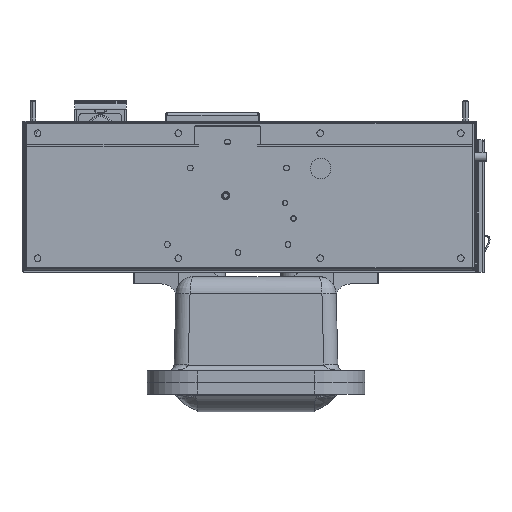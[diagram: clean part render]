
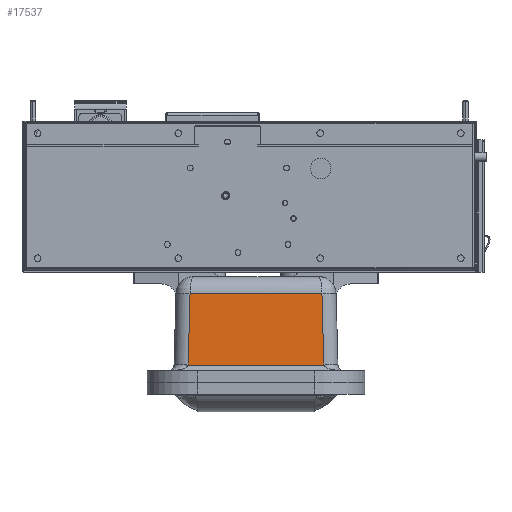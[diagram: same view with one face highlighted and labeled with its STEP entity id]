
A CAD part, front view. The second image highlights one B-rep face of the part: STEP entity #17537.
In plain terms, the highlighted planar face has unit normal (0, -1, 0.026).
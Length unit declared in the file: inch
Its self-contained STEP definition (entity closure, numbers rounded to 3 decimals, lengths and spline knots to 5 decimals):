
#4332 = ORIENTED_EDGE ( 'NONE', *, *, #73813, .F. ) ;
#5323 = CARTESIAN_POINT ( 'NONE',  ( 3.19696, 3.78477, -24.18288 ) ) ;
#6217 = DIRECTION ( 'NONE',  ( -1., 0., 0. ) ) ;
#8525 = DIRECTION ( 'NONE',  ( 0., -1., 0.026 ) ) ;
#17537 = ADVANCED_FACE ( 'NONE', ( #94180 ), #112539, .T. ) ;
#20525 = DIRECTION ( 'NONE',  ( 0., -0.026, -1. ) ) ;
#29184 = AXIS2_PLACEMENT_3D ( 'NONE', #106776, #8525, #20525 ) ;
#32408 = LINE ( 'NONE', #52120, #49912 ) ;
#33656 = DIRECTION ( 'NONE',  ( -1., 0., 0. ) ) ;
#34348 = ORIENTED_EDGE ( 'NONE', *, *, #95951, .T. ) ;
#35568 = VECTOR ( 'NONE', #6217, 39.37008 ) ;
#45802 = VERTEX_POINT ( 'NONE', #116060 ) ;
#49039 = LINE ( 'NONE', #113761, #64008 ) ;
#49912 = VECTOR ( 'NONE', #33656, 39.37008 ) ;
#50054 = VECTOR ( 'NONE', #124386, 39.37008 ) ;
#52120 = CARTESIAN_POINT ( 'NONE',  ( 5.0203, 3.70553, -27.20906 ) ) ;
#57863 = LINE ( 'NONE', #125003, #50054 ) ;
#58848 = ORIENTED_EDGE ( 'NONE', *, *, #66502, .F. ) ;
#64008 = VECTOR ( 'NONE', #87722, 39.37008 ) ;
#66502 = EDGE_CURVE ( 'NONE', #99167, #45802, #57863, .T. ) ;
#73813 = EDGE_CURVE ( 'NONE', #123565, #99167, #32408, .T. ) ;
#78062 = CARTESIAN_POINT ( 'NONE',  ( 3.27621, 3.70553, -27.20906 ) ) ;
#79694 = ORIENTED_EDGE ( 'NONE', *, *, #121905, .F. ) ;
#87722 = DIRECTION ( 'NONE',  ( 0.026, -0.026, -0.999 ) ) ;
#94180 = FACE_OUTER_BOUND ( 'NONE', #108929, .T. ) ;
#95951 = EDGE_CURVE ( 'NONE', #111851, #45802, #121641, .T. ) ;
#99167 = VERTEX_POINT ( 'NONE', #111761 ) ;
#106776 = CARTESIAN_POINT ( 'NONE',  ( 5.0203, 3.70553, -27.20906 ) ) ;
#108929 = EDGE_LOOP ( 'NONE', ( #58848, #4332, #79694, #34348 ) ) ;
#111761 = CARTESIAN_POINT ( 'NONE',  ( -2.48561, 3.70553, -27.20906 ) ) ;
#111851 = VERTEX_POINT ( 'NONE', #5323 ) ;
#112539 = PLANE ( 'NONE',  #29184 ) ;
#113761 = CARTESIAN_POINT ( 'NONE',  ( 3.27355, 3.70819, -27.10757 ) ) ;
#116060 = CARTESIAN_POINT ( 'NONE',  ( -2.40637, 3.78477, -24.18288 ) ) ;
#121641 = LINE ( 'NONE', #123497, #35568 ) ;
#121905 = EDGE_CURVE ( 'NONE', #111851, #123565, #49039, .T. ) ;
#123497 = CARTESIAN_POINT ( 'NONE',  ( 5.0203, 3.78477, -24.18288 ) ) ;
#123565 = VERTEX_POINT ( 'NONE', #78062 ) ;
#124386 = DIRECTION ( 'NONE',  ( 0.026, 0.026, 0.999 ) ) ;
#125003 = CARTESIAN_POINT ( 'NONE',  ( -2.44019, 3.75095, -25.47458 ) ) ;
